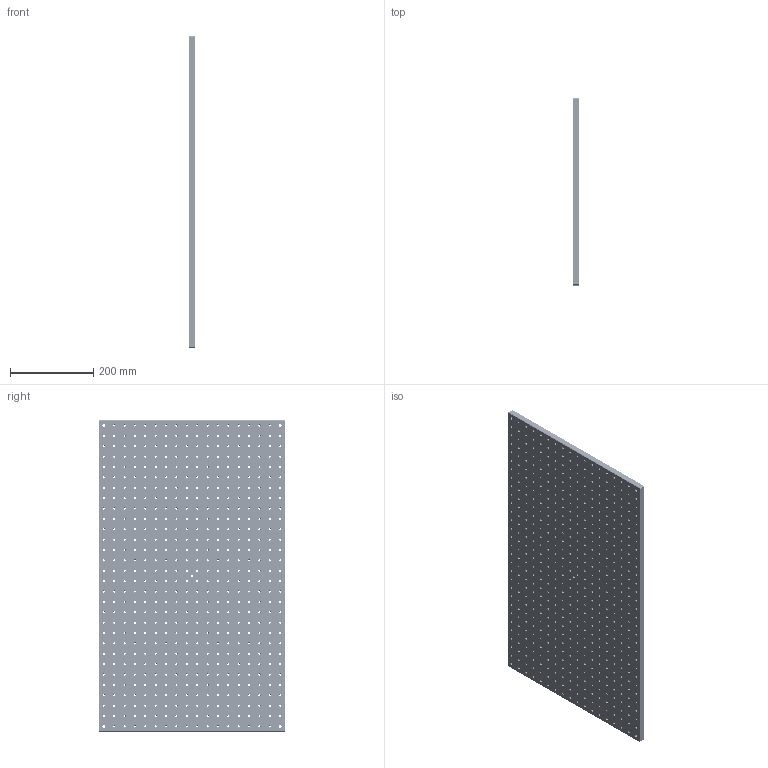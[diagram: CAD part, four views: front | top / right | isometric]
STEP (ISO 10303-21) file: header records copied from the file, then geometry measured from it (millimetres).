
FILE_DESCRIPTION(/* description */ (''),/* implementation_level */ '2;1');
FILE_NAME(/* name */ 'U:\KONSTRUKTORIAI\DOKUMENTACIJA\1\1B-ALE\1B-ALE-45-75-015\step\1B-ALE-45-75-015.stp',/* time_stamp */ '2016-06-15T08:15:00+03:00',/* author */ ('dsgn31'),/* organization */ (''),/* preprocessor_version */ 'ST-DEVELOPER v15.2',/* originating_system */ 'Autodesk Inventor 2014',/* authorisation */ '');
FILE_SCHEMA (('AUTOMOTIVE_DESIGN { 1 0 10303 214 3 1 1 }'));
Length unit declared in the file: millimetre
Products named in the file (1): 1B-ALE-45-75-015.01
Bounding box: 15 x 450 x 750 mm (x, y, z)
Volume: 4901587.7 mm3; surface area: 810933.2 mm2
Topology: 1 solids, 1 shells, 1641 faces, 4358 edges, 2724 vertices
Faces by surface type: cone 1072, cylinder 546, plane 23
Full cylindrical faces by diameter (mm): 4.917 x536, 6.5 x5, 11 x5
Entity records: 40535 total; most frequent: DIRECTION 7652, CARTESIAN_POINT 6034, ORIENTED_EDGE 4408, EDGE_LOOP 4346, AXIS2_PLACEMENT_3D 3806, FACE_BOUND 2707, EDGE_CURVE 2204, VERTEX_POINT 2188
